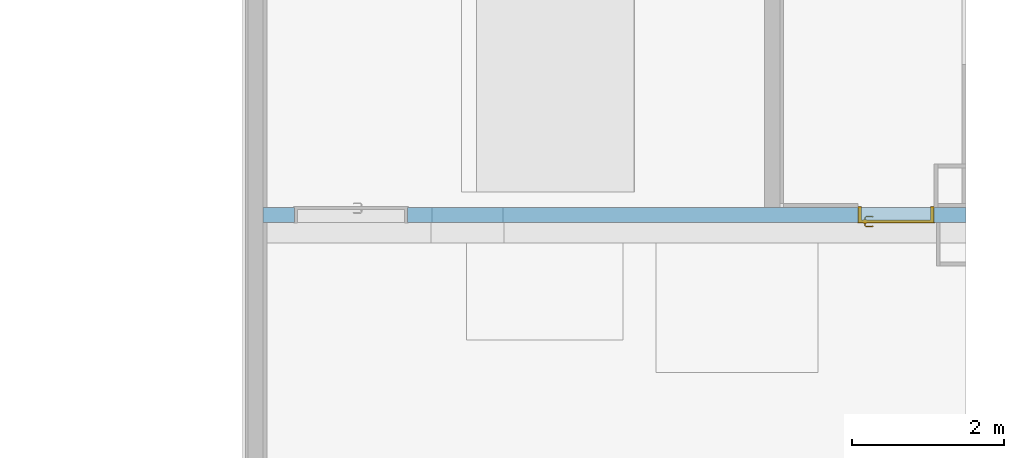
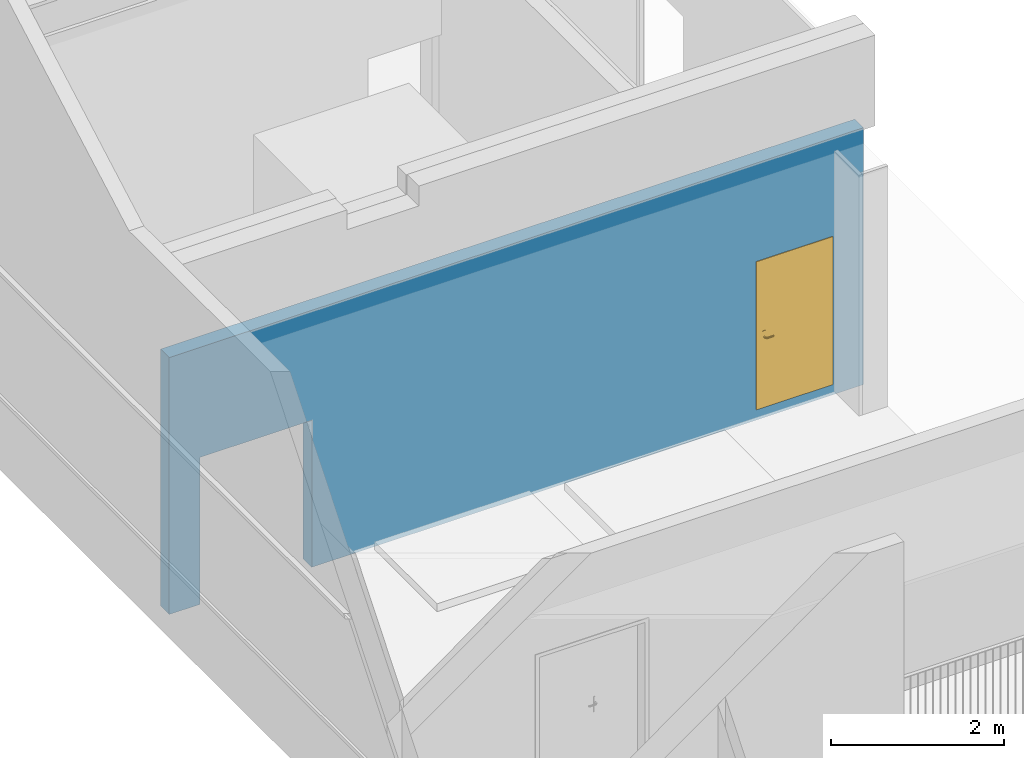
# One storey, part 26 of 44: 1 door, 1 wall, 2 openings.
"""IFC2X3 building model written with IfcOpenShell, lengths in centimetres."""

import ifcopenshell
import ifcopenshell.guid

model = None  # the IFC model being written
_history = None  # IfcOwnerHistory: only IFC2X3 demands one
_inside = {}  # id of a spatial element -> (the spatial element, [elements in it])
_under = {}  # id of a project, library or spatial element -> (it, [spatial elements below it])
_declared = {}  # id of a project -> (the project, [libraries it declares])
_typed = {}  # id of a type object -> (the type object, [elements of that type])
_made_of = {}  # id of a material, layer set ... -> (it, [elements and type objects made of it])


def new_model(schema):
    """Start an empty IFC model of exactly this schema.

    Asked for "IFC4X3", IfcOpenShell would pick the latest addendum, in which some entities
    have other attributes; the version numbers below select the first issue.
    IFC2X3 requires an IfcOwnerHistory on every rooted entity: one is made here for all.
    """
    global model, _history
    if schema == "IFC4X3":
        model = ifcopenshell.file(schema_version=(4, 3, 0, 0))
    else:
        model = ifcopenshell.file(schema=schema)
    _inside.clear()
    _under.clear()
    _declared.clear()
    _typed.clear()
    _made_of.clear()
    _history = None
    if model.schema == "IFC2X3":
        org = make("IfcOrganization", Name="unknown")
        user = make(
            "IfcPersonAndOrganization",
            ThePerson=make("IfcPerson", FamilyName="unknown"),
            TheOrganization=org,
        )
        app = make(
            "IfcApplication",
            ApplicationDeveloper=org,
            Version="unknown",
            ApplicationFullName="unknown",
            ApplicationIdentifier="unknown",
        )
        _history = make(
            "IfcOwnerHistory",
            OwningUser=user,
            OwningApplication=app,
            ChangeAction="ADDED",
            CreationDate=0,
        )
    return model


def make(cls, **values):
    """One entity of the class cls with the attributes given. An attribute that is None is left unset."""
    return model.create_entity(
        cls, **{name: value for name, value in values.items() if value is not None}
    )


def entity(cls, *values):
    """Any entity or typed value of the class cls, its attributes in the order of the schema. None: left unset."""
    e = model.create_entity(cls)
    for i, value in enumerate(values):
        if value is not None:
            e[i] = value
    return e


def rooted(cls, **values):
    """An entity with a GlobalId (a new one), such as an element, a storey or a relation."""
    return make(cls, GlobalId=ifcopenshell.guid.new(), OwnerHistory=_history, **values)


def si_unit(unit_type, name, prefix=None):
    """IfcSIUnit, for example si_unit("LENGTHUNIT", "METRE", prefix="MILLI")."""
    return make("IfcSIUnit", UnitType=unit_type, Prefix=prefix, Name=name)


def converted_unit(unit_type, name, factor, base, dimensions=None, offset=None):
    """IfcConversionBasedUnit, such as the inch: factor (a typed value) times the base unit."""
    return make(
        "IfcConversionBasedUnit"
        if offset is None
        else "IfcConversionBasedUnitWithOffset",
        ConversionOffset=offset,
        Dimensions=None
        if dimensions is None
        else entity("IfcDimensionalExponents", *dimensions),
        UnitType=unit_type,
        Name=name,
        ConversionFactor=make(
            "IfcMeasureWithUnit", ValueComponent=factor, UnitComponent=base
        ),
    )


def derived_unit(unit_type, elements):
    """IfcDerivedUnit: a product of units, each with its exponent."""
    return make(
        "IfcDerivedUnit",
        Elements=[
            make("IfcDerivedUnitElement", Unit=unit, Exponent=power)
            for unit, power in elements
        ],
        UnitType=unit_type,
    )


def assignment(units):
    """IfcUnitAssignment: the units of a project."""
    return None if units is None else make("IfcUnitAssignment", Units=units)


def point(xyz):
    """IfcCartesianPoint."""
    return None if xyz is None else make("IfcCartesianPoint", Coordinates=xyz)


def direction(xyz):
    """IfcDirection."""
    return None if xyz is None else make("IfcDirection", DirectionRatios=xyz)


def frame(location, z_axis=None, x_axis=None):
    """IfcAxis2Placement3D, a coordinate frame: its origin and axes. An axis left out is left unset."""
    return make(
        "IfcAxis2Placement3D",
        Location=point(location),
        Axis=direction(z_axis),
        RefDirection=direction(x_axis),
    )


def frame_2d(location, x_axis=None):
    """IfcAxis2Placement2D, a coordinate frame in the plane: its origin and x axis."""
    return make(
        "IfcAxis2Placement2D", Location=point(location), RefDirection=direction(x_axis)
    )


def origin():
    """The frame at (0, 0, 0) with its axes left unset."""
    return frame((0.0, 0.0, 0.0))


def place(relative_to, where):
    """IfcLocalPlacement: puts the frame where relative to a parent placement (None: the world)."""
    return make(
        "IfcLocalPlacement", PlacementRelTo=relative_to, RelativePlacement=where
    )


def context(
    kind, dimensions, precision=None, world=None, true_north=None, identifier=None
):
    """IfcGeometricRepresentationContext, for example the 3D "Model" context."""
    return make(
        "IfcGeometricRepresentationContext",
        ContextIdentifier=identifier,
        ContextType=kind,
        CoordinateSpaceDimension=dimensions,
        Precision=precision,
        WorldCoordinateSystem=world,
        TrueNorth=true_north,
    )


def subcontext(parent, identifier, kind, view, scale=None):
    """IfcGeometricRepresentationSubContext, for example "Body" below "Model"."""
    return make(
        "IfcGeometricRepresentationSubContext",
        ContextIdentifier=identifier,
        ContextType=kind,
        ParentContext=parent,
        TargetScale=scale,
        TargetView=view,
    )


def project(units=None, contexts=None):
    """IfcProject with its units and contexts."""
    return rooted(
        "IfcProject",
        Name="project",
        RepresentationContexts=contexts,
        UnitsInContext=assignment(units),
    )


def spatial(cls, under=None, at=None, **own):
    """A site, building, storey or space (cls), placed at a placement, below another one or the project."""
    s = rooted(cls, ObjectPlacement=at, **own)
    if under is not None:
        _under.setdefault(under.id(), (under, []))[1].append(s)
    return s


def profile(cls, at=None, kind="AREA", **sizes):
    """A parametric profile (cls). Its sizes go by their IFC names, for example OverallWidth=200.0."""
    return make(cls, ProfileType=kind, Position=at, **sizes)


def rectangle(**sizes):
    """IfcRectangleProfileDef."""
    return profile("IfcRectangleProfileDef", **sizes)


def extrude(swept, where, along, depth):
    """IfcExtrudedAreaSolid: the profile swept, set in the frame where, extruded along a direction by depth."""
    return make(
        "IfcExtrudedAreaSolid",
        SweptArea=swept,
        Position=where,
        ExtrudedDirection=direction(along),
        Depth=depth,
    )


def faces_of(points, faces, orient=None, outer=None):
    """IfcFace entities. A face is a list of loops; a loop is a list of indices into points, from 0.

    orient and outer hold one flag for each loop. By default every Orientation is true, the
    first loop of a face is its IfcFaceOuterBound and the others are IfcFaceBound.
    """
    made = []
    for i, loops in enumerate(faces):
        bounds = []
        for j, loop in enumerate(loops):
            is_outer = j == 0 if outer is None else outer[i][j]
            bounds.append(
                make(
                    "IfcFaceOuterBound" if is_outer else "IfcFaceBound",
                    Bound=make("IfcPolyLoop", Polygon=[points[k] for k in loop]),
                    Orientation=True if orient is None else orient[i][j],
                )
            )
        made.append(make("IfcFace", Bounds=bounds))
    return made


def faceted_brep(points, faces, orient=None, outer=None, voids=None):
    """IfcFacetedBrep: a solid bounded by flat faces; with voids (closed shells), ...WithVoids."""
    shared = [point(p) for p in points]
    hull = make("IfcClosedShell", CfsFaces=faces_of(shared, faces, orient, outer))
    if voids is None:
        return make("IfcFacetedBrep", Outer=hull)
    return make(
        "IfcFacetedBrepWithVoids",
        Outer=hull,
        Voids=[
            make(cls, CfsFaces=faces_of(shared, fs, o, b)) for cls, fs, o, b in voids
        ],
    )


def shape(context_of_items, identifier, shape_type, items):
    """IfcShapeRepresentation: the items that make up one representation, for example the "Body"."""
    return make(
        "IfcShapeRepresentation",
        ContextOfItems=context_of_items,
        RepresentationIdentifier=identifier,
        RepresentationType=shape_type,
        Items=items,
    )


def source(mapping_origin, context_of_items, identifier, shape_type, items):
    """IfcRepresentationMap: a shape defined once, which mapped items show again and again."""
    return make(
        "IfcRepresentationMap",
        MappingOrigin=mapping_origin,
        MappedRepresentation=shape(context_of_items, identifier, shape_type, items),
    )


def transform(
    local_origin,
    x_axis=None,
    y_axis=None,
    z_axis=None,
    scale=None,
    scale2=None,
    scale3=None,
    uniform=True,
):
    """IfcCartesianTransformationOperator3D, or its non-uniform kind. x_axis, y_axis, z_axis: its Axis1, 2, 3."""
    if uniform:
        return make(
            "IfcCartesianTransformationOperator3D",
            Axis1=direction(x_axis),
            Axis2=direction(y_axis),
            LocalOrigin=point(local_origin),
            Scale=scale,
            Axis3=direction(z_axis),
        )
    return make(
        "IfcCartesianTransformationOperator3DnonUniform",
        Axis1=direction(x_axis),
        Axis2=direction(y_axis),
        LocalOrigin=point(local_origin),
        Scale=scale,
        Axis3=direction(z_axis),
        Scale2=scale2,
        Scale3=scale3,
    )


def mapped(mapping_source, mapping_target):
    """IfcMappedItem: shows the shape of a source again, moved by a transform."""
    return make(
        "IfcMappedItem", MappingSource=mapping_source, MappingTarget=mapping_target
    )


def material(Name=None, Category=None):
    """IfcMaterial."""
    return make("IfcMaterial", Name=Name, Category=Category)


def material_list(materials):
    """IfcMaterialList."""
    return make("IfcMaterialList", Materials=materials)


def layer(
    of_material, thickness, ventilated=None, Name=None, Category=None, Priority=None
):
    """IfcMaterialLayer: one layer of a wall or slab, of a material (None: an air gap)."""
    return make(
        "IfcMaterialLayer",
        Material=of_material,
        LayerThickness=thickness,
        IsVentilated=ventilated,
        Name=Name,
        Category=Category,
        Priority=Priority,
    )


def layer_set(layers, Name=None):
    """IfcMaterialLayerSet."""
    return make("IfcMaterialLayerSet", MaterialLayers=layers, LayerSetName=Name)


def layer_usage(for_layer_set, set_direction, sense, offset, extent=None):
    """IfcMaterialLayerSetUsage: how a layer set lies in its element."""
    return make(
        "IfcMaterialLayerSetUsage",
        ForLayerSet=for_layer_set,
        LayerSetDirection=set_direction,
        DirectionSense=sense,
        OffsetFromReferenceLine=offset,
        ReferenceExtent=extent,
    )


def made_of(thing, what):
    """Note that an element or type object is made of a material, layer set ...; save() writes the relation."""
    if what is not None:
        _made_of.setdefault(what.id(), (what, []))[1].append(thing)
    return thing


def type_object(cls, material=None, **own):
    """A type object (cls), such as IfcWallType, which elements share."""
    return made_of(rooted(cls, **own), material)


def type_shapes(of_type, sources):
    """Give a type object the sources (RepresentationMaps) that its elements show as mapped items."""
    of_type.RepresentationMaps = sources


def element(
    cls,
    number,
    at=None,
    inside=None,
    cuts=None,
    type_object=None,
    material=None,
    context=None,
    identifier="Body",
    shape_type=None,
    held_by="IfcProductDefinitionShape",
    body=None,
    shapes=None,
    **own,
):
    """One element of the class cls, such as IfcWall. Its Tag is "e" and its number.

    at: its placement. inside: the storey or other place that contains it. cuts: it is an
    opening in that element (IfcRelVoidsElement). A single representation is given by context,
    identifier, shape_type and body (its items); several are given by shapes. held_by: the class
    of the entity that holds the representations. save() writes the other relations.
    """
    e = rooted(cls, Tag="e%d" % number, ObjectPlacement=at, **own)
    if body is not None:
        shapes = [shape(context, identifier, shape_type, body)]
    if shapes is not None:
        e.Representation = make(held_by, Representations=shapes)
    if inside is not None:
        _inside.setdefault(inside.id(), (inside, []))[1].append(e)
    if cuts is not None:
        rooted(
            "IfcRelVoidsElement", RelatingBuildingElement=cuts, RelatedOpeningElement=e
        )
    if type_object is not None:
        _typed.setdefault(type_object.id(), (type_object, []))[1].append(e)
    return made_of(e, material)


def fill(opening, filler):
    """IfcRelFillsElement: the door or window that sits in an opening."""
    return rooted(
        "IfcRelFillsElement",
        RelatingOpeningElement=opening,
        RelatedBuildingElement=filler,
    )


def aggregate(whole, parts):
    """IfcRelAggregates: a whole, such as a stair, and the parts it consists of."""
    return rooted("IfcRelAggregates", RelatingObject=whole, RelatedObjects=parts)


def save(model, path):
    """Write the relations noted so far, then the file.

    IfcRelAggregates (storeys below a building ...), IfcRelContainedInSpatialStructure (elements
    in a storey), IfcRelDefinesByType, IfcRelAssociatesMaterial and IfcRelDeclares: one each for
    every whole, place, type object, material and project.
    """
    for whole, parts in _under.values():
        aggregate(whole, parts)
    for where, things in _inside.values():
        rooted(
            "IfcRelContainedInSpatialStructure",
            RelatedElements=things,
            RelatingStructure=where,
        )
    for kind, things in _typed.values():
        rooted("IfcRelDefinesByType", RelatedObjects=things, RelatingType=kind)
    for what, things in _made_of.values():
        rooted("IfcRelAssociatesMaterial", RelatedObjects=things, RelatingMaterial=what)
    for by, libraries in _declared.values():
        rooted("IfcRelDeclares", RelatingContext=by, RelatedDefinitions=libraries)
    model.write(path)


model = new_model("IFC2X3")

# Units and contexts
model_context = context("Model", 3, precision=0.001, world=origin(), true_north=direction((6.12303176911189e-17, 1.0)))
body_context = subcontext(model_context, "Body", "Model", "MODEL_VIEW")
ifc_project = project(units=[si_unit("LENGTHUNIT", "METRE", prefix="CENTI"), si_unit("AREAUNIT", "SQUARE_METRE"), si_unit("VOLUMEUNIT", "CUBIC_METRE"), converted_unit("PLANEANGLEUNIT", "DEGREE", entity("IfcRatioMeasure", 0.0174532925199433), si_unit("PLANEANGLEUNIT", "RADIAN"), dimensions=[0, 0, 0, 0, 0, 0, 0]), si_unit("MASSUNIT", "GRAM", prefix="KILO"), si_unit("TIMEUNIT", "SECOND"), si_unit("FREQUENCYUNIT", "HERTZ"), si_unit("THERMODYNAMICTEMPERATUREUNIT", "DEGREE_CELSIUS"), derived_unit("THERMALTRANSMITTANCEUNIT", [(si_unit("MASSUNIT", "GRAM", prefix="KILO"), 1), (si_unit("THERMODYNAMICTEMPERATUREUNIT", "KELVIN"), -1), (si_unit("TIMEUNIT", "SECOND"), -3)]), derived_unit("VOLUMETRICFLOWRATEUNIT", [(si_unit("LENGTHUNIT", "METRE"), 3), (si_unit("TIMEUNIT", "SECOND"), -1)]), si_unit("ELECTRICCURRENTUNIT", "AMPERE"), si_unit("ELECTRICVOLTAGEUNIT", "VOLT"), si_unit("POWERUNIT", "WATT"), si_unit("FORCEUNIT", "NEWTON", prefix="KILO"), si_unit("ILLUMINANCEUNIT", "LUX"), si_unit("LUMINOUSFLUXUNIT", "LUMEN"), si_unit("LUMINOUSINTENSITYUNIT", "CANDELA"), derived_unit("USERDEFINED", [(si_unit("MASSUNIT", "GRAM", prefix="KILO"), -1), (si_unit("LENGTHUNIT", "METRE"), -2), (si_unit("TIMEUNIT", "SECOND"), 3), (si_unit("LUMINOUSFLUXUNIT", "LUMEN"), 1)]), derived_unit("LINEARVELOCITYUNIT", [(si_unit("LENGTHUNIT", "METRE"), 1), (si_unit("TIMEUNIT", "SECOND"), -1)]), si_unit("PRESSUREUNIT", "PASCAL"), derived_unit("USERDEFINED", [(si_unit("LENGTHUNIT", "METRE"), -2), (si_unit("MASSUNIT", "GRAM", prefix="KILO"), 1), (si_unit("TIMEUNIT", "SECOND"), -2)])], contexts=[model_context])

# Site, building, storey
site_placement = place(None, frame((8.62739174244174, -249.285249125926, 0.0)))
site = spatial("IfcSite", under=ifc_project, at=site_placement, Name="Default", CompositionType="ELEMENT")
building_placement = place(site_placement, origin())
building = spatial("IfcBuilding", under=site, at=building_placement, CompositionType="ELEMENT")
storey_placement = place(building_placement, frame((0.0, 0.0, 343.0)))
storey = spatial("IfcBuildingStorey", under=building, at=storey_placement, Name="R+1", CompositionType="ELEMENT", Elevation=343.0)

# Wall, openings, door
ifc_material_1 = material(Name="Béton, coulé sur place, gris")
ifc_layer = layer(ifc_material_1, 20.0)
ifc_layer_set = layer_set([ifc_layer], Name="Mur de base:BET 20")
ifc_layer_usage = layer_usage(ifc_layer_set, "AXIS2", "NEGATIVE", 10.0)
wall_type = type_object("IfcWallType", Name="Mur de base:BET 20", PredefinedType="STANDARD", material=ifc_layer_set)
wall_placement = place(storey_placement, frame((3053.90482780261, 5584.9802081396, 0.0)))
wall = element("IfcWallStandardCase", 1, at=wall_placement, inside=storey, type_object=wall_type, material=ifc_layer_usage, Name="Mur de base:BET 20", ObjectType="Mur de base:BET 20", context=body_context, shape_type="SweptSolid", body=[
    extrude(rectangle(XDim=925.000000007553, YDim=20.0000000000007, at=frame_2d((462.500000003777, 4.35207425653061e-14), x_axis=(-1.0, 0.0))), origin(), (0.0, 0.0, 1.0), 362.0),
])
opening_1_placement = place(wall_placement, frame((40.9999881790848, -10.0, 0.0)))
element("IfcOpeningElement", 2, at=opening_1_placement, cuts=wall, Name="Tierce(R)_bois_mu:143 x 204 cm:1", ObjectType="Opening", context=body_context, shape_type="SweptSolid", body=[
    extrude(rectangle(XDim=206.999999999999, YDim=149.0, at=frame_2d((103.499999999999, 74.4999999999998), x_axis=(1.0, 0.0))), frame((0.0, 0.0, 0.0), z_axis=(0.0, 1.0, 0.0), x_axis=(0.0, 0.0, 1.0)), (0.0, 0.0, 1.0), 20.0),
])
opening_2_placement = place(wall_placement, frame((883.0, 10.0, 15.0)))
opening_2 = element("IfcOpeningElement", 3, at=opening_2_placement, cuts=wall, Name="Simple(R)_bois_mu:93 x 204 cm:1", ObjectType="Opening", context=body_context, shape_type="SweptSolid", body=[
    extrude(rectangle(XDim=207.499999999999, YDim=99.9999999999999, at=frame_2d((103.75, 50.0), x_axis=(1.0, 0.0))), frame((0.0, 0.0, 0.0), z_axis=(0.0, -1.0, 0.0), x_axis=(0.0, 0.0, 1.0)), (0.0, 0.0, 1.0), 20.0),
])
ifc_material_2 = material(Name="Porte - Poignée")
ifc_material_3 = material(Name="Porte - Cadre")
ifc_material_4 = material(Name="Porte - Panneau")
ifc_material_list_1 = material_list([ifc_material_2, ifc_material_3, ifc_material_4])
ifc_material_list_2 = material_list([ifc_material_2, ifc_material_3, ifc_material_4])
door_style = type_object("IfcDoorStyle", Name="93 x 204 cm", ConstructionType="NOTDEFINED", OperationType="SINGLE_SWING_RIGHT", ParameterTakesPrecedence=False, Sizeable=False, material=ifc_material_list_2)
shared_shape = source(origin(), body_context, "Body", "Brep", [
    faceted_brep([(8.79747013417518, 3.69999999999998, 100.778044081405), (8.3999999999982, 3.69999999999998, 100.699999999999), (8.39999999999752, 3.69999999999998, 99.2999999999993), (8.79747013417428, 3.69999999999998, 99.2219559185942), (9.20252986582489, 3.69999999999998, 99.2219559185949), (9.60000000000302, 3.69999999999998, 99.3000000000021), (9.60000000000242, 3.69999999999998, 100.699999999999), (9.2025298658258, 3.69999999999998, 100.778044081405), (9.60000000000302, 5.94852045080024, 99.3000000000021), (9.60000000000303, 5.94852045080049, 100.699999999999), (9.20252986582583, 6.1131579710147, 100.778044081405), (10.5838906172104, 7.49451872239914, 100.778044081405), (10.4161093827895, 7.89957845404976, 100.778044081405), (8.79747013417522, 6.2809392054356, 100.778044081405), (19.5684749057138, 6.84673156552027, 100.778044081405), (19.8548953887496, 7.13315204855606, 100.778044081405), (19.0884689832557, 7.89957845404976, 100.778044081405), (18.9206877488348, 7.49451872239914, 100.778044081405), (8.39999999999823, 6.44557672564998, 100.699999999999), (8.3999999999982, 6.44557672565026, 99.2999999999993), (8.79747013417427, 6.28093920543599, 99.2219559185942), (10.4161093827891, 7.8995784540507, 99.2219559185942), (10.58389061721, 7.49451872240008, 99.2219559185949), (9.20252986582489, 6.11315797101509, 99.2219559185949), (19.8548953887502, 7.13315204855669, 99.2219559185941), (19.5684749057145, 6.84673156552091, 99.2219559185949), (18.9206877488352, 7.49451872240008, 99.2219559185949), (19.088468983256, 7.8995784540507, 99.2219559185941), (10.7485281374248, 7.09704858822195, 99.3000000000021), (10.748528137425, 7.09704858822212, 100.699999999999), (10.2514718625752, 8.29704858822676, 100.699999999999), (10.2514718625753, 8.29704858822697, 99.2999999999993), (14.7522904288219, 7.09704858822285, 99.3000000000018), (18.7560502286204, 7.09704858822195, 99.3000000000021), (18.7560502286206, 7.09704858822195, 100.699999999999), (14.7522891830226, 7.09704858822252, 100.699999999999), (14.7522891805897, 7.71249275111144, 100.787811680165), (19.25310650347, 8.29704858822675, 100.699999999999), (15.2600577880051, 8.29704858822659, 100.699999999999), (19.2531065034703, 8.29704858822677, 99.2999999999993), (14.2445206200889, 8.29704858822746, 99.2999999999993), (14.7522892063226, 7.71249274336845, 99.2121883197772), (19.2874210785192, 6.56567773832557, 99.3000000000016), (20.1359492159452, 7.41420587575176, 99.2999999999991), (20.135949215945, 7.4142058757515, 100.699999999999), (19.287421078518, 6.5656777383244, 100.699999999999)], [[[0, 1, 2, 3, 4, 5, 6, 7]], [[6, 5, 8, 9]], [[9, 10, 7, 6]], [[10, 11, 12, 13, 0, 7]], [[14, 15, 16, 17]], [[13, 18, 1, 0]], [[2, 1, 18, 19]], [[19, 20, 3, 2]], [[20, 21, 22, 23, 4, 3]], [[24, 25, 26, 27]], [[23, 8, 5, 4]], [[9, 8, 28, 29]], [[29, 11, 10, 9]], [[12, 30, 18, 13]], [[19, 18, 30, 31]], [[31, 21, 20, 19]], [[22, 28, 8, 23]], [[29, 28, 32, 33, 34, 35]], [[11, 35, 36]], [[16, 37, 38]], [[30, 12, 38]], [[38, 12, 36]], [[36, 35, 17]], [[17, 16, 36]], [[35, 11, 29]], [[34, 17, 35]], [[11, 36, 12]], [[38, 36, 16]], [[31, 30, 38, 37, 39, 40]], [[40, 41, 21]], [[41, 40, 27]], [[21, 31, 40]], [[39, 27, 40]], [[41, 32, 22]], [[22, 21, 41]], [[26, 32, 41]], [[28, 22, 32]], [[32, 26, 33]], [[26, 41, 27]], [[42, 25, 24, 43, 44, 15, 14, 45]], [[34, 33, 42, 45]], [[45, 14, 17, 34]], [[15, 44, 37, 16]], [[39, 37, 44, 43]], [[43, 24, 27, 39]], [[25, 42, 33, 26]]]),
    faceted_brep([(8.79747013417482, -1.30000000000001, 100.778044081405), (9.20252986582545, -1.30000000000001, 100.778044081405), (9.6000000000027, -1.30000000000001, 100.699999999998), (9.60000000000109, -1.30000000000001, 99.3000000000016), (9.20252986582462, -1.30000000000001, 99.2219559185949), (8.79747013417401, -1.30000000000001, 99.2219559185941), (8.39999999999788, -1.30000000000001, 99.2999999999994), (8.39999999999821, -1.30000000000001, 100.699999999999), (8.39999999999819, -4.06509507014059, 100.699999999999), (8.7974701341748, -3.90045754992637, 100.778044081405), (10.402358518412, -5.50534593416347, 100.778044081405), (10.5701397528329, -5.10028620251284, 100.778044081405), (9.20252986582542, -3.73267631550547, 100.778044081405), (19.852181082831, -4.73891952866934, 100.778044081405), (19.5657605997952, -4.4524990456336, 100.778044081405), (18.9179734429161, -5.10028620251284, 100.778044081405), (19.085754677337, -5.50534593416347, 100.778044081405), (9.60000000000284, -3.56803879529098, 100.699999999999), (9.6000000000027, -3.56803879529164, 99.3000000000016), (9.20252986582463, -3.7326763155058, 99.2219559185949), (10.5701397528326, -5.10028620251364, 99.2219559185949), (10.4023585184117, -5.50534593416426, 99.2219559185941), (8.79747013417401, -3.9004575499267, 99.2219559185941), (19.5657605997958, -4.45249904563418, 99.2219559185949), (19.8521810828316, -4.73891952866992, 99.2219559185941), (19.0857546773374, -5.50534593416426, 99.2219559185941), (18.9179734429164, -5.10028620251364, 99.2219559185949), (8.39999999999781, -4.06509507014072, 99.2999999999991), (10.2377209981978, -5.90281606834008, 100.699999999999), (10.7347772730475, -4.70281606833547, 100.699999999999), (10.7347772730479, -4.70281606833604, 99.3000000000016), (10.2377209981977, -5.90281606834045, 99.2999999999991), (14.2307697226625, -5.90281606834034, 100.699999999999), (14.7440566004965, -5.31828027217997, 100.787811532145), (19.2503921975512, -5.90281606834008, 100.699999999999), (14.7440565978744, -4.70281606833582, 100.699999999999), (18.7533359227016, -4.70281606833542, 100.699999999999), (18.7533359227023, -4.70281606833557, 99.3000000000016), (14.7440563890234, -4.70281606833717, 99.3000000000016), (14.744056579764, -5.31828027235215, 99.2121884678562), (19.2503921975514, -5.90281606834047, 99.2999999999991), (15.2573433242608, -5.90281606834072, 99.2999999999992), (19.2847067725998, -4.1714452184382, 100.699999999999), (20.1332349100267, -5.01997335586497, 100.699999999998), (20.1332349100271, -5.01997335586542, 99.2999999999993), (19.2847067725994, -4.17144521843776, 99.3000000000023)], [[[0, 1, 2, 3, 4, 5, 6, 7]], [[8, 9, 0, 7]], [[9, 10, 11, 12, 1, 0]], [[13, 14, 15, 16]], [[12, 17, 2, 1]], [[3, 2, 17, 18]], [[18, 19, 4, 3]], [[19, 20, 21, 22, 5, 4]], [[23, 24, 25, 26]], [[22, 27, 6, 5]], [[7, 6, 27, 8]], [[28, 10, 9, 8]], [[11, 29, 17, 12]], [[18, 17, 29, 30]], [[30, 20, 19, 18]], [[21, 31, 27, 22]], [[8, 27, 31, 28]], [[32, 33, 10]], [[33, 32, 16]], [[10, 28, 32]], [[34, 16, 32]], [[33, 35, 11]], [[11, 10, 33]], [[15, 35, 33]], [[29, 11, 35]], [[35, 15, 36]], [[15, 33, 16]], [[30, 29, 35, 36, 37, 38]], [[20, 38, 39]], [[25, 40, 41]], [[31, 21, 41]], [[41, 21, 39]], [[39, 38, 26]], [[26, 25, 39]], [[38, 20, 30]], [[37, 26, 38]], [[20, 39, 21]], [[41, 39, 25]], [[28, 31, 41, 40, 34, 32]], [[42, 14, 13, 43, 44, 24, 23, 45]], [[43, 13, 16, 34]], [[14, 42, 36, 15]], [[37, 36, 42, 45]], [[45, 23, 26, 37]], [[24, 44, 40, 25]], [[34, 40, 44, 43]]]),
    faceted_brep([(10.03527618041, 3.19999999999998, 86.6003983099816), (11.0, 3.19999999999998, 87.0), (11.0, 3.19999999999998, 108.0), (10.03527618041, 3.19999999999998, 108.399601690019), (9.0, 3.19999999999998, 108.535898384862), (7.96472381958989, 3.19999999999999, 108.399601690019), (7.0, 3.19999999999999, 108.0), (7.0, 3.19999999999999, 87.0), (7.96472381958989, 3.19999999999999, 86.6003983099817), (9.0, 3.19999999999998, 86.4641016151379), (10.03527618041, 3.69999999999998, 108.399601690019), (11.0, 3.69999999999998, 108.0), (11.0, 3.69999999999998, 87.0), (10.03527618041, 3.69999999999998, 86.6003983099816), (9.0, 3.69999999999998, 86.4641016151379), (7.96472381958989, 3.69999999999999, 86.6003983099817), (7.0, 3.69999999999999, 87.0), (7.0, 3.69999999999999, 108.0), (7.96472381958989, 3.69999999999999, 108.399601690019), (9.0, 3.69999999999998, 108.535898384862)], [[[0, 1, 2, 3, 4, 5, 6, 7, 8, 9]], [[10, 11, 12, 13, 14, 15, 16, 17, 18, 19]], [[11, 10, 3, 2]], [[3, 10, 19, 4]], [[19, 18, 5, 4]], [[18, 17, 6, 5]], [[7, 6, 17, 16]], [[16, 15, 8, 7]], [[8, 15, 14, 9]], [[14, 13, 0, 9]], [[13, 12, 1, 0]], [[2, 1, 12, 11]]]),
    faceted_brep([(10.03527618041, -1.30000000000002, 86.6003983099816), (11.0, -1.30000000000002, 87.0), (11.0, -1.30000000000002, 108.0), (10.03527618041, -1.30000000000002, 108.399601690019), (9.0, -1.30000000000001, 108.535898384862), (7.9647238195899, -1.30000000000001, 108.399601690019), (7.0, -1.30000000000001, 108.0), (7.0, -1.30000000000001, 87.0), (7.96472381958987, -1.30000000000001, 86.6003983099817), (9.0, -1.30000000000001, 86.4641016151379), (10.03527618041, -0.800000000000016, 108.399601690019), (11.0, -0.800000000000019, 108.0), (11.0, -0.800000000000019, 87.0), (10.03527618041, -0.800000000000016, 86.6003983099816), (9.0, -0.800000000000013, 86.4641016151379), (7.96472381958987, -0.800000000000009, 86.6003983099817), (7.0, -0.800000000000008, 87.0), (7.0, -0.800000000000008, 108.0), (7.9647238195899, -0.800000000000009, 108.399601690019), (9.0, -0.800000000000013, 108.535898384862)], [[[0, 1, 2, 3, 4, 5, 6, 7, 8, 9]], [[10, 11, 12, 13, 14, 15, 16, 17, 18, 19]], [[16, 15, 8, 7]], [[8, 15, 14, 9]], [[14, 13, 0, 9]], [[13, 12, 1, 0]], [[2, 1, 12, 11]], [[11, 10, 3, 2]], [[3, 10, 19, 4]], [[19, 18, 5, 4]], [[18, 17, 6, 5]], [[7, 6, 17, 16]]]),
    faceted_brep([(0.0, 0.0, 0.0), (0.0, 20.0, 0.0), (-1.0, 20.0, 0.0), (-1.0, 20.8000000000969, 0.0), (4.49999999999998, 20.8000000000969, 0.0), (4.49999999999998, 3.2, 0.0), (3.49999999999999, 3.2, 0.0), (3.49999999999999, -0.799999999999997, 0.0), (-1.0, -0.799999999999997, 0.0), (-1.0, 0.0, 0.0), (0.0, 0.0, 207.499999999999), (0.0, 20.0, 207.499999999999), (100.0, 20.0, 207.499999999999), (100.0, 20.0, 0.0), (101.0, 20.0, 0.0), (101.0, 20.0, 208.499999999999), (-1.0, 20.0, 208.499999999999), (-1.0, 20.8000000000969, 208.499999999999), (101.0, 20.8000000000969, 208.499999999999), (101.0, 20.8000000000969, 0.0), (95.5, 20.8000000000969, 0.0), (95.5, 20.8000000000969, 203.0), (4.49999999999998, 20.8000000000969, 203.0), (4.49999999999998, 3.2, 203.0), (95.5, 3.2, 203.0), (95.5, 3.2, 0.0), (96.5, 3.2, 0.0), (96.5, 3.2, 204.0), (3.49999999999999, 3.2, 204.0), (3.49999999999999, -0.799999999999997, 204.0), (96.5, -0.799999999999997, 204.0), (96.5, -0.799999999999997, 0.0), (101.0, -0.799999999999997, 0.0), (101.0, -0.799999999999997, 208.499999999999), (-1.0, -0.799999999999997, 208.499999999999), (-1.0, 0.0, 208.499999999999), (101.0, 0.0, 208.499999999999), (101.0, 0.0, 0.0), (100.0, 0.0, 0.0), (100.0, 0.0, 207.499999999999)], [[[0, 1, 2, 3, 4, 5, 6, 7, 8, 9]], [[1, 0, 10, 11]], [[2, 1, 11, 12, 13, 14, 15, 16]], [[3, 2, 16, 17]], [[4, 3, 17, 18, 19, 20, 21, 22]], [[5, 4, 22, 23]], [[6, 5, 23, 24, 25, 26, 27, 28]], [[7, 6, 28, 29]], [[8, 7, 29, 30, 31, 32, 33, 34]], [[9, 8, 34, 35]], [[0, 9, 35, 36, 37, 38, 39, 10]], [[12, 39, 38, 13]], [[38, 37, 32, 31, 26, 25, 20, 19, 14, 13]], [[18, 15, 14, 19]], [[24, 21, 20, 25]], [[30, 27, 26, 31]], [[36, 33, 32, 37]], [[11, 10, 39, 12]], [[17, 16, 15, 18]], [[23, 22, 21, 24]], [[29, 28, 27, 30]], [[35, 34, 33, 36]]]),
    faceted_brep([(3.49999999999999, -0.799999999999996, 204.0), (3.49999999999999, -0.799999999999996, 0.0), (96.5, -0.799999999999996, 0.0), (96.5, -0.799999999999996, 204.0), (3.49999999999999, 3.2, 204.0), (96.5, 3.2, 204.0), (96.5, 3.2, 0.0), (3.49999999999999, 3.2, 0.0)], [[[0, 1, 2, 3]], [[4, 5, 6, 7]], [[1, 0, 4, 7]], [[2, 1, 7, 6]], [[3, 2, 6, 5]], [[0, 3, 5, 4]]]),
])
type_shapes(door_style, [shared_shape])
door_placement = place(opening_2_placement, frame((-100.0, -20.0, 0.0)))
door = element("IfcDoor", 4, at=door_placement, inside=storey, type_object=door_style, material=ifc_material_list_1, Name="Simple(R)_bois_mu:93 x 204 cm", ObjectType="93 x 204 cm", OverallHeight=207.499999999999, OverallWidth=99.9999999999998, context=body_context, shape_type="MappedRepresentation", body=[
    mapped(shared_shape, transform((0.0, 0.0, 0.0), scale=1.0)),
])
fill(opening_2, door)

save(model, "model.ifc")
